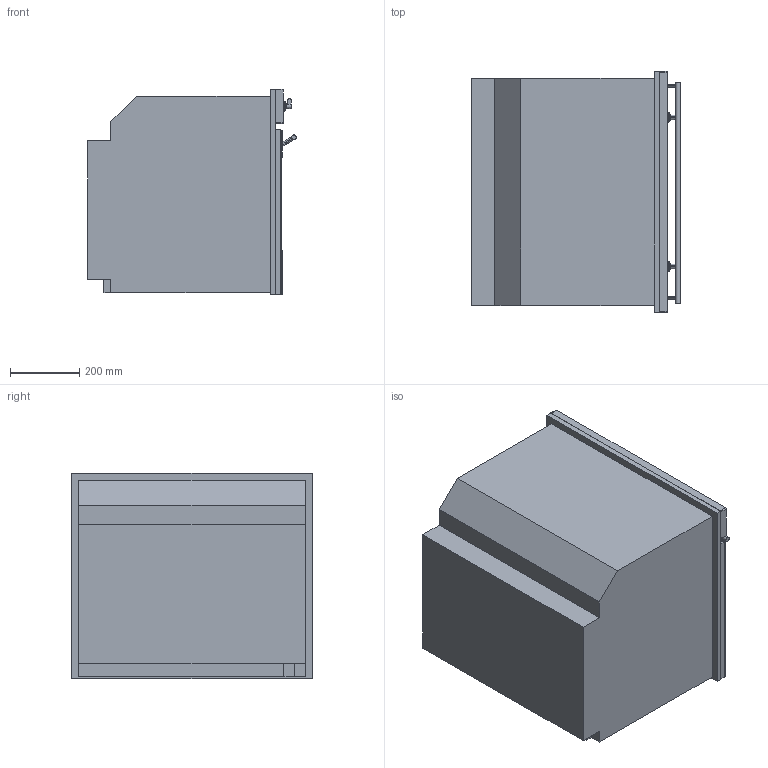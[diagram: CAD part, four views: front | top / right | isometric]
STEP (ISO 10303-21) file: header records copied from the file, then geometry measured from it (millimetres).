
FILE_DESCRIPTION(/* description */ (''),/* implementation_level */ '2;1');
FILE_NAME(/* name */ 'forno sf7390x.stp',/* time_stamp */ '2018-08-02T09:43:42+02:00',/* author */ (''),/* organization */ (''),/* preprocessor_version */ 'ST-DEVELOPER v16',/* originating_system */ 'SIEMENS PLM Software NX 11.0',/* authorisation */ '');
FILE_SCHEMA (('AUTOMOTIVE_DESIGN { 1 0 10303 214 3 1 1 1 }'));
Length unit declared in the file: millimetre
Products named in the file (1): gobbBC98650Etmxp
Bounding box: 604.62 x 698 x 597 mm (x, y, z)
Volume: 203387168.8 mm3; surface area: 4012218.3 mm2
Topology: 22 solids, 22 shells, 252 faces, 561 edges, 366 vertices
Faces by surface type: plane 142, cylinder 85, torus 12, extrusion 11, cone 2
Full cylindrical faces by diameter (mm): 4.608 x6, 5 x2, 6 x2, 7 x2, 8 x2, 12 x2, 13.5 x2, 14 x1, 20 x2, 27 x2, 29 x2
Entity records: 7295 total; most frequent: CARTESIAN_POINT 1539, DIRECTION 1171, ORIENTED_EDGE 1054, EDGE_CURVE 527, AXIS2_PLACEMENT_3D 422, VERTEX_POINT 364, VECTOR 327, LINE 316
